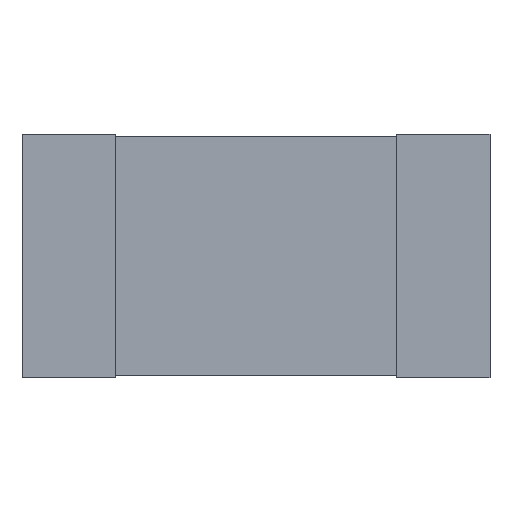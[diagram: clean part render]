
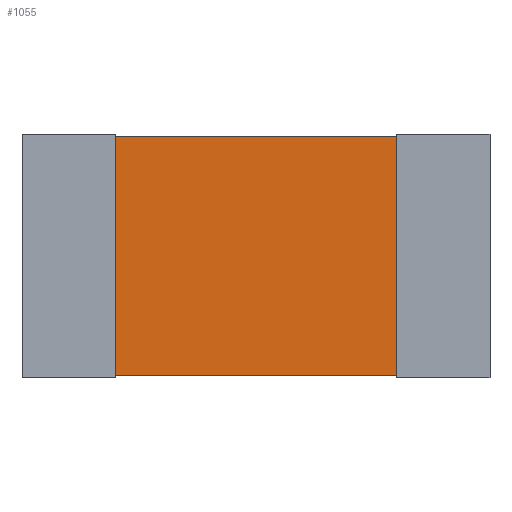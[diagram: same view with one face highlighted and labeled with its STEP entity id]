
A CAD part, top view. The second image highlights one B-rep face of the part: STEP entity #1055.
In plain terms, the highlighted planar face has unit normal (0, 0, 1).
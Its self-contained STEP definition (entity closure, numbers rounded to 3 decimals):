
#741 = VERTEX_POINT('',#742);
#742 = CARTESIAN_POINT('',(0.,0.,0.637));
#749 = PLANE('',#750);
#750 = AXIS2_PLACEMENT_3D('',#751,#752,#753);
#751 = CARTESIAN_POINT('',(0.,0.,0.));
#752 = DIRECTION('',(1.,0.,-0.));
#753 = DIRECTION('',(0.,0.,1.));
#761 = PLANE('',#762);
#762 = AXIS2_PLACEMENT_3D('',#763,#764,#765);
#763 = CARTESIAN_POINT('',(0.,0.,0.));
#764 = DIRECTION('',(-0.,1.,0.));
#765 = DIRECTION('',(0.,0.,1.));
#802 = VERTEX_POINT('',#803);
#803 = CARTESIAN_POINT('',(0.,5.096,0.637));
#817 = PLANE('',#818);
#818 = AXIS2_PLACEMENT_3D('',#819,#820,#821);
#819 = CARTESIAN_POINT('',(0.,5.096,0.));
#820 = DIRECTION('',(-0.,1.,0.));
#821 = DIRECTION('',(0.,0.,1.));
#829 = EDGE_CURVE('',#741,#802,#830,.T.);
#830 = SURFACE_CURVE('',#831,(#835,#842),.PCURVE_S1.);
#831 = LINE('',#832,#833);
#832 = CARTESIAN_POINT('',(0.,0.,0.637));
#833 = VECTOR('',#834,1.);
#834 = DIRECTION('',(-0.,1.,0.));
#835 = PCURVE('',#749,#836);
#836 = DEFINITIONAL_REPRESENTATION('',(#837),#841);
#837 = LINE('',#838,#839);
#838 = CARTESIAN_POINT('',(0.637,0.));
#839 = VECTOR('',#840,1.);
#840 = DIRECTION('',(0.,-1.));
#841 = ( GEOMETRIC_REPRESENTATION_CONTEXT(2) 
PARAMETRIC_REPRESENTATION_CONTEXT() REPRESENTATION_CONTEXT('2D SPACE',''
  ) );
#842 = PCURVE('',#843,#848);
#843 = PLANE('',#844);
#844 = AXIS2_PLACEMENT_3D('',#845,#846,#847);
#845 = CARTESIAN_POINT('',(0.,0.,0.637));
#846 = DIRECTION('',(0.,0.,1.));
#847 = DIRECTION('',(1.,0.,-0.));
#848 = DEFINITIONAL_REPRESENTATION('',(#849),#853);
#849 = LINE('',#850,#851);
#850 = CARTESIAN_POINT('',(0.,0.));
#851 = VECTOR('',#852,1.);
#852 = DIRECTION('',(0.,1.));
#853 = ( GEOMETRIC_REPRESENTATION_CONTEXT(2) 
PARAMETRIC_REPRESENTATION_CONTEXT() REPRESENTATION_CONTEXT('2D SPACE',''
  ) );
#861 = VERTEX_POINT('',#862);
#862 = CARTESIAN_POINT('',(6.,0.,0.637));
#869 = PLANE('',#870);
#870 = AXIS2_PLACEMENT_3D('',#871,#872,#873);
#871 = CARTESIAN_POINT('',(6.,0.,0.));
#872 = DIRECTION('',(1.,0.,-0.));
#873 = DIRECTION('',(0.,0.,1.));
#912 = VERTEX_POINT('',#913);
#913 = CARTESIAN_POINT('',(6.,5.096,0.637));
#934 = EDGE_CURVE('',#861,#912,#935,.T.);
#935 = SURFACE_CURVE('',#936,(#940,#947),.PCURVE_S1.);
#936 = LINE('',#937,#938);
#937 = CARTESIAN_POINT('',(6.,0.,0.637));
#938 = VECTOR('',#939,1.);
#939 = DIRECTION('',(0.,1.,0.));
#940 = PCURVE('',#869,#941);
#941 = DEFINITIONAL_REPRESENTATION('',(#942),#946);
#942 = LINE('',#943,#944);
#943 = CARTESIAN_POINT('',(0.637,0.));
#944 = VECTOR('',#945,1.);
#945 = DIRECTION('',(0.,-1.));
#946 = ( GEOMETRIC_REPRESENTATION_CONTEXT(2) 
PARAMETRIC_REPRESENTATION_CONTEXT() REPRESENTATION_CONTEXT('2D SPACE',''
  ) );
#947 = PCURVE('',#843,#948);
#948 = DEFINITIONAL_REPRESENTATION('',(#949),#953);
#949 = LINE('',#950,#951);
#950 = CARTESIAN_POINT('',(6.,0.));
#951 = VECTOR('',#952,1.);
#952 = DIRECTION('',(0.,1.));
#953 = ( GEOMETRIC_REPRESENTATION_CONTEXT(2) 
PARAMETRIC_REPRESENTATION_CONTEXT() REPRESENTATION_CONTEXT('2D SPACE',''
  ) );
#980 = EDGE_CURVE('',#741,#861,#981,.T.);
#981 = SURFACE_CURVE('',#982,(#986,#993),.PCURVE_S1.);
#982 = LINE('',#983,#984);
#983 = CARTESIAN_POINT('',(0.,0.,0.637));
#984 = VECTOR('',#985,1.);
#985 = DIRECTION('',(1.,0.,-0.));
#986 = PCURVE('',#761,#987);
#987 = DEFINITIONAL_REPRESENTATION('',(#988),#992);
#988 = LINE('',#989,#990);
#989 = CARTESIAN_POINT('',(0.637,0.));
#990 = VECTOR('',#991,1.);
#991 = DIRECTION('',(0.,1.));
#992 = ( GEOMETRIC_REPRESENTATION_CONTEXT(2) 
PARAMETRIC_REPRESENTATION_CONTEXT() REPRESENTATION_CONTEXT('2D SPACE',''
  ) );
#993 = PCURVE('',#843,#994);
#994 = DEFINITIONAL_REPRESENTATION('',(#995),#999);
#995 = LINE('',#996,#997);
#996 = CARTESIAN_POINT('',(0.,0.));
#997 = VECTOR('',#998,1.);
#998 = DIRECTION('',(1.,0.));
#999 = ( GEOMETRIC_REPRESENTATION_CONTEXT(2) 
PARAMETRIC_REPRESENTATION_CONTEXT() REPRESENTATION_CONTEXT('2D SPACE',''
  ) );
#1027 = EDGE_CURVE('',#802,#912,#1028,.T.);
#1028 = SURFACE_CURVE('',#1029,(#1033,#1040),.PCURVE_S1.);
#1029 = LINE('',#1030,#1031);
#1030 = CARTESIAN_POINT('',(0.,5.096,0.637));
#1031 = VECTOR('',#1032,1.);
#1032 = DIRECTION('',(1.,0.,-0.));
#1033 = PCURVE('',#817,#1034);
#1034 = DEFINITIONAL_REPRESENTATION('',(#1035),#1039);
#1035 = LINE('',#1036,#1037);
#1036 = CARTESIAN_POINT('',(0.637,0.));
#1037 = VECTOR('',#1038,1.);
#1038 = DIRECTION('',(0.,1.));
#1039 = ( GEOMETRIC_REPRESENTATION_CONTEXT(2) 
PARAMETRIC_REPRESENTATION_CONTEXT() REPRESENTATION_CONTEXT('2D SPACE',''
  ) );
#1040 = PCURVE('',#843,#1041);
#1041 = DEFINITIONAL_REPRESENTATION('',(#1042),#1046);
#1042 = LINE('',#1043,#1044);
#1043 = CARTESIAN_POINT('',(0.,5.096));
#1044 = VECTOR('',#1045,1.);
#1045 = DIRECTION('',(1.,0.));
#1046 = ( GEOMETRIC_REPRESENTATION_CONTEXT(2) 
PARAMETRIC_REPRESENTATION_CONTEXT() REPRESENTATION_CONTEXT('2D SPACE',''
  ) );
#1055 = ADVANCED_FACE('',(#1056),#843,.T.);
#1056 = FACE_BOUND('',#1057,.T.);
#1057 = EDGE_LOOP('',(#1058,#1059,#1060,#1061));
#1058 = ORIENTED_EDGE('',*,*,#829,.F.);
#1059 = ORIENTED_EDGE('',*,*,#980,.T.);
#1060 = ORIENTED_EDGE('',*,*,#934,.T.);
#1061 = ORIENTED_EDGE('',*,*,#1027,.F.);
